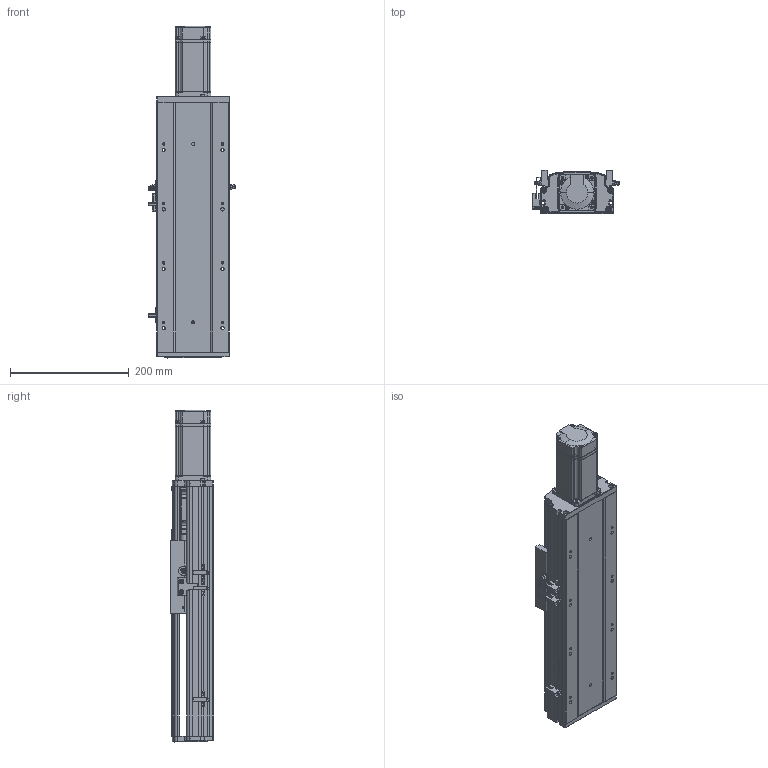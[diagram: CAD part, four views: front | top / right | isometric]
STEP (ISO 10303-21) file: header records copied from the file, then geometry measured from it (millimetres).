
FILE_DESCRIPTION (( 'STEP AP203' ), '1' );
FILE_NAME ('RYK120-L1610-S150-M40-C3-MK.STEP', '2026-03-09T08:17:39', ( '' ), ( '' ), 'SwSTEP 2.0', 'SolidWorks 2016', '' );
FILE_SCHEMA (( 'CONFIG_CONTROL_DESIGN' ));
Length unit declared in the file: millimetre
Products named in the file (17): 滅袉蝶18-10; 2.10.1.C521-V1.0RY120臏賑輸16蹟譫-啞-JZZY-NRL-L1899; RYK120-L1610-S150-M40-C3-MK; RY120-16螺母油路-集中注油组合; RYK170-薊粣ん芵隴裔啣; 15; RY120电机端支撑座-压铸加工-M5; CB╱T 3762-1996[锥形润滑油嘴1-ZM10×1]_1-ZM10×1; RYK120-300-MK-菁釱-啞_150; RYK120-300-MK-奻裔啣-啞_150; 44-49-12-14; 覜茼ん672; 滅袉蝶18-24; 侂狟400W侜督萇儂; RY120綴裔啣; RY120QGB-1.8; RY120外置感应片(140共用）
Assembly tree (21 placements, depth 3):
  RYK120-L1610-S150-M40-C3-MK
    RYK120-300-MK-菁釱-啞_150
    RYK120-300-MK-奻裔啣-啞_150
    RY120綴裔啣
    滅袉蝶18-24  x2
    滅袉蝶18-10  x2
    覜茼ん672  x3
    RY120外置感应片(140共用）
    RY120QGB-1.8
    RY120-16螺母油路-集中注油组合
      2.10.1.C521-V1.0RY120臏賑輸16蹟譫-啞-JZZY-NRL-L1899
      CB╱T 3762-1996[锥形润滑油嘴1-ZM10×1]_1-ZM10×1  x2
    RY120电机端支撑座-压铸加工-M5
    RYK170-薊粣ん芵隴裔啣
    44-49-12-14
    侂狟400W侜督萇儂
      15
Bounding box: 145.7 x 73 x 558.5 mm (x, y, z)
Volume: 1841685.6 mm3; surface area: 576567.9 mm2
Topology: 23 solids, 23 shells, 2388 faces, 6606 edges, 4241 vertices
Faces by surface type: plane 1171, cylinder 873, cone 217, bspline 127
Entity records: 78736 total; most frequent: CARTESIAN_POINT 22298, ORIENTED_EDGE 11800, DIRECTION 10859, EDGE_CURVE 5900, VERTEX_POINT 3853, AXIS2_PLACEMENT_3D 3686, LINE 3487, VECTOR 3487
